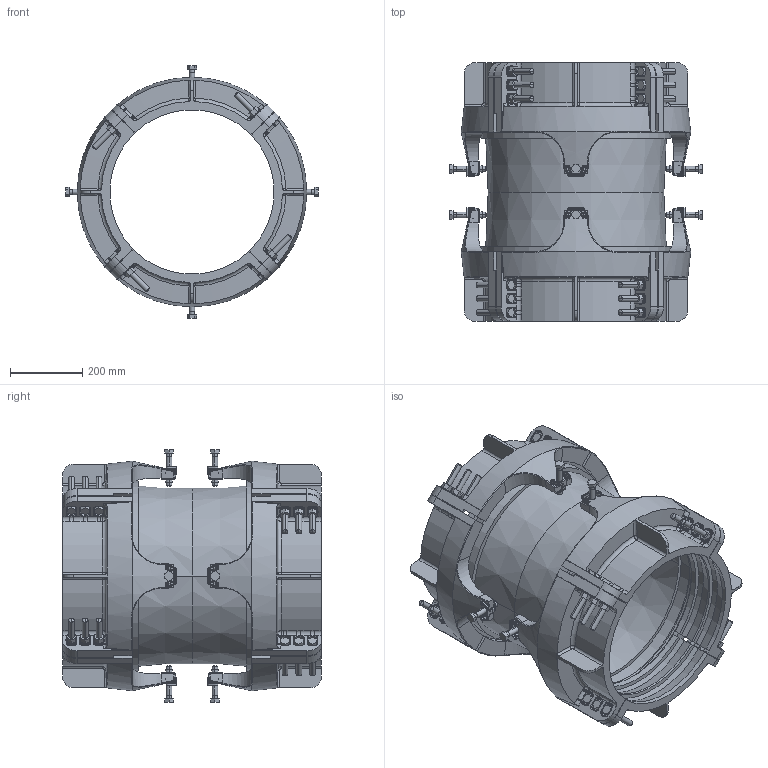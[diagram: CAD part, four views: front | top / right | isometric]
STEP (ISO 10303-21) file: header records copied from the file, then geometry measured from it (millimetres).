
FILE_DESCRIPTION((''),'2;1');
FILE_NAME('450_SW0001','2017-05-08T',('mfairey'),('Glynwed Pipe Systems'),'PRO/ENGINEER BY PARAMETRIC TECHNOLOGY CORPORATION, 2006020','PRO/ENGINEER BY PARAMETRIC TECHNOLOGY CORPORATION, 2006020','');
FILE_SCHEMA(('CONFIG_CONTROL_DESIGN'));
Length unit declared in the file: millimetre
Products named in the file (1): 450_SW0001
Bounding box: 699.5 x 715 x 699.5 mm (x, y, z)
Surface area: 4978615.8 mm2 (no closed solid volume)
Topology: 0 solids, 185 shells, 3438 faces, 9556 edges, 6104 vertices
Faces by surface type: cylinder 1240, plane 1042, torus 552, bspline 368, cone 124, sphere 112
Entity records: 126406 total; most frequent: CARTESIAN_POINT 40978, DIRECTION 18312, ORIENTED_EDGE 16728, EDGE_CURVE 9492, AXIS2_PLACEMENT_3D 7038, VERTEX_POINT 6104, VECTOR 4236, LINE 4236
